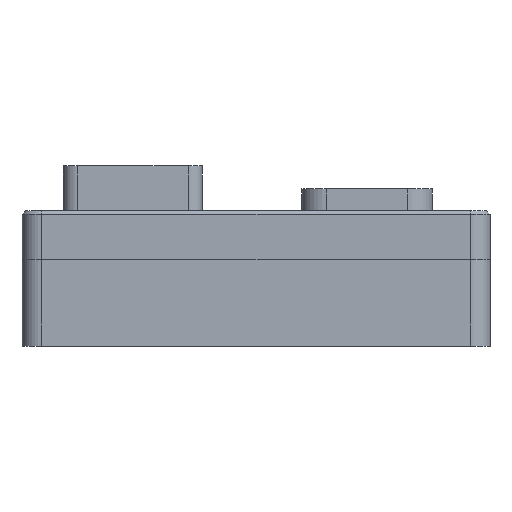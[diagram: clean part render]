
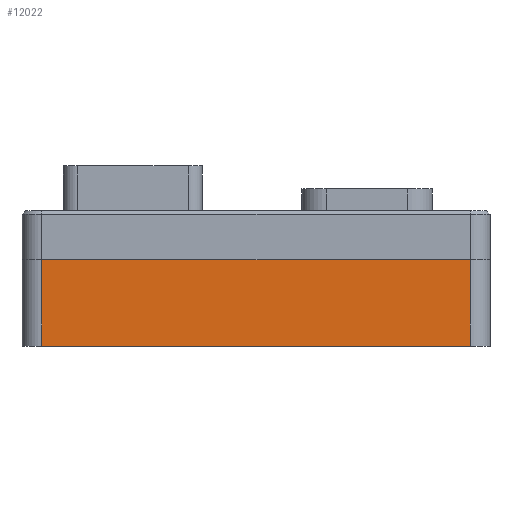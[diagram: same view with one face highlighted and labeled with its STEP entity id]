
A CAD part, left-side view. The second image highlights one B-rep face of the part: STEP entity #12022.
In plain terms, the highlighted planar face has unit normal (-1, 0, 0).
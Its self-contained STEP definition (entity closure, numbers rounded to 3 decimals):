
#9523 = PLANE('',#9524);
#9524 = AXIS2_PLACEMENT_3D('',#9525,#9526,#9527);
#9525 = CARTESIAN_POINT('',(0.,0.,0.));
#9526 = DIRECTION('',(0.,0.,1.));
#9527 = DIRECTION('',(1.,0.,-0.));
#9551 = CYLINDRICAL_SURFACE('',#9552,8.);
#9552 = AXIS2_PLACEMENT_3D('',#9553,#9554,#9555);
#9553 = CARTESIAN_POINT('',(-92.,-87.,0.));
#9554 = DIRECTION('',(0.,0.,1.));
#9555 = DIRECTION('',(0.,-1.,0.));
#9579 = PLANE('',#9580);
#9580 = AXIS2_PLACEMENT_3D('',#9581,#9582,#9583);
#9581 = CARTESIAN_POINT('',(0.,0.,35.));
#9582 = DIRECTION('',(0.,0.,1.));
#9583 = DIRECTION('',(1.,0.,-0.));
#9892 = CYLINDRICAL_SURFACE('',#9893,8.);
#9893 = AXIS2_PLACEMENT_3D('',#9894,#9895,#9896);
#9894 = CARTESIAN_POINT('',(-92.,87.,0.));
#9895 = DIRECTION('',(0.,0.,1.));
#9896 = DIRECTION('',(-0.,1.,0.));
#10833 = VERTEX_POINT('',#10834);
#10834 = CARTESIAN_POINT('',(-100.,87.,0.));
#10856 = EDGE_CURVE('',#10833,#10857,#10859,.T.);
#10857 = VERTEX_POINT('',#10858);
#10858 = CARTESIAN_POINT('',(-100.,-87.,0.));
#10859 = SURFACE_CURVE('',#10860,(#10864,#10871),.PCURVE_S1.);
#10860 = LINE('',#10861,#10862);
#10861 = CARTESIAN_POINT('',(-100.,95.,0.));
#10862 = VECTOR('',#10863,1.);
#10863 = DIRECTION('',(0.,-1.,0.));
#10864 = PCURVE('',#9523,#10865);
#10865 = DEFINITIONAL_REPRESENTATION('',(#10866),#10870);
#10866 = LINE('',#10867,#10868);
#10867 = CARTESIAN_POINT('',(-100.,95.));
#10868 = VECTOR('',#10869,1.);
#10869 = DIRECTION('',(0.,-1.));
#10870 = ( GEOMETRIC_REPRESENTATION_CONTEXT(2) 
PARAMETRIC_REPRESENTATION_CONTEXT() REPRESENTATION_CONTEXT('2D SPACE',''
  ) );
#10871 = PCURVE('',#10872,#10877);
#10872 = PLANE('',#10873);
#10873 = AXIS2_PLACEMENT_3D('',#10874,#10875,#10876);
#10874 = CARTESIAN_POINT('',(-100.,95.,0.));
#10875 = DIRECTION('',(1.,0.,-0.));
#10876 = DIRECTION('',(0.,-1.,0.));
#10877 = DEFINITIONAL_REPRESENTATION('',(#10878),#10882);
#10878 = LINE('',#10879,#10880);
#10879 = CARTESIAN_POINT('',(0.,0.));
#10880 = VECTOR('',#10881,1.);
#10881 = DIRECTION('',(1.,0.));
#10882 = ( GEOMETRIC_REPRESENTATION_CONTEXT(2) 
PARAMETRIC_REPRESENTATION_CONTEXT() REPRESENTATION_CONTEXT('2D SPACE',''
  ) );
#11146 = EDGE_CURVE('',#10857,#11147,#11149,.T.);
#11147 = VERTEX_POINT('',#11148);
#11148 = CARTESIAN_POINT('',(-100.,-87.,35.));
#11149 = SURFACE_CURVE('',#11150,(#11154,#11161),.PCURVE_S1.);
#11150 = LINE('',#11151,#11152);
#11151 = CARTESIAN_POINT('',(-100.,-87.,0.));
#11152 = VECTOR('',#11153,1.);
#11153 = DIRECTION('',(0.,0.,1.));
#11154 = PCURVE('',#9551,#11155);
#11155 = DEFINITIONAL_REPRESENTATION('',(#11156),#11160);
#11156 = LINE('',#11157,#11158);
#11157 = CARTESIAN_POINT('',(-1.571,0.));
#11158 = VECTOR('',#11159,1.);
#11159 = DIRECTION('',(-0.,1.));
#11160 = ( GEOMETRIC_REPRESENTATION_CONTEXT(2) 
PARAMETRIC_REPRESENTATION_CONTEXT() REPRESENTATION_CONTEXT('2D SPACE',''
  ) );
#11161 = PCURVE('',#10872,#11162);
#11162 = DEFINITIONAL_REPRESENTATION('',(#11163),#11167);
#11163 = LINE('',#11164,#11165);
#11164 = CARTESIAN_POINT('',(182.,0.));
#11165 = VECTOR('',#11166,1.);
#11166 = DIRECTION('',(0.,-1.));
#11167 = ( GEOMETRIC_REPRESENTATION_CONTEXT(2) 
PARAMETRIC_REPRESENTATION_CONTEXT() REPRESENTATION_CONTEXT('2D SPACE',''
  ) );
#11298 = VERTEX_POINT('',#11299);
#11299 = CARTESIAN_POINT('',(-100.,87.,35.));
#11321 = EDGE_CURVE('',#11298,#11147,#11322,.T.);
#11322 = SURFACE_CURVE('',#11323,(#11327,#11334),.PCURVE_S1.);
#11323 = LINE('',#11324,#11325);
#11324 = CARTESIAN_POINT('',(-100.,95.,35.));
#11325 = VECTOR('',#11326,1.);
#11326 = DIRECTION('',(0.,-1.,0.));
#11327 = PCURVE('',#9579,#11328);
#11328 = DEFINITIONAL_REPRESENTATION('',(#11329),#11333);
#11329 = LINE('',#11330,#11331);
#11330 = CARTESIAN_POINT('',(-100.,95.));
#11331 = VECTOR('',#11332,1.);
#11332 = DIRECTION('',(0.,-1.));
#11333 = ( GEOMETRIC_REPRESENTATION_CONTEXT(2) 
PARAMETRIC_REPRESENTATION_CONTEXT() REPRESENTATION_CONTEXT('2D SPACE',''
  ) );
#11334 = PCURVE('',#10872,#11335);
#11335 = DEFINITIONAL_REPRESENTATION('',(#11336),#11340);
#11336 = LINE('',#11337,#11338);
#11337 = CARTESIAN_POINT('',(0.,-35.));
#11338 = VECTOR('',#11339,1.);
#11339 = DIRECTION('',(1.,0.));
#11340 = ( GEOMETRIC_REPRESENTATION_CONTEXT(2) 
PARAMETRIC_REPRESENTATION_CONTEXT() REPRESENTATION_CONTEXT('2D SPACE',''
  ) );
#11744 = EDGE_CURVE('',#10833,#11298,#11745,.T.);
#11745 = SURFACE_CURVE('',#11746,(#11750,#11757),.PCURVE_S1.);
#11746 = LINE('',#11747,#11748);
#11747 = CARTESIAN_POINT('',(-100.,87.,0.));
#11748 = VECTOR('',#11749,1.);
#11749 = DIRECTION('',(0.,0.,1.));
#11750 = PCURVE('',#9892,#11751);
#11751 = DEFINITIONAL_REPRESENTATION('',(#11752),#11756);
#11752 = LINE('',#11753,#11754);
#11753 = CARTESIAN_POINT('',(1.571,0.));
#11754 = VECTOR('',#11755,1.);
#11755 = DIRECTION('',(0.,1.));
#11756 = ( GEOMETRIC_REPRESENTATION_CONTEXT(2) 
PARAMETRIC_REPRESENTATION_CONTEXT() REPRESENTATION_CONTEXT('2D SPACE',''
  ) );
#11757 = PCURVE('',#10872,#11758);
#11758 = DEFINITIONAL_REPRESENTATION('',(#11759),#11763);
#11759 = LINE('',#11760,#11761);
#11760 = CARTESIAN_POINT('',(8.,0.));
#11761 = VECTOR('',#11762,1.);
#11762 = DIRECTION('',(0.,-1.));
#11763 = ( GEOMETRIC_REPRESENTATION_CONTEXT(2) 
PARAMETRIC_REPRESENTATION_CONTEXT() REPRESENTATION_CONTEXT('2D SPACE',''
  ) );
#12022 = ADVANCED_FACE('',(#12023),#10872,.F.);
#12023 = FACE_BOUND('',#12024,.F.);
#12024 = EDGE_LOOP('',(#12025,#12026,#12027,#12028));
#12025 = ORIENTED_EDGE('',*,*,#10856,.F.);
#12026 = ORIENTED_EDGE('',*,*,#11744,.T.);
#12027 = ORIENTED_EDGE('',*,*,#11321,.T.);
#12028 = ORIENTED_EDGE('',*,*,#11146,.F.);
